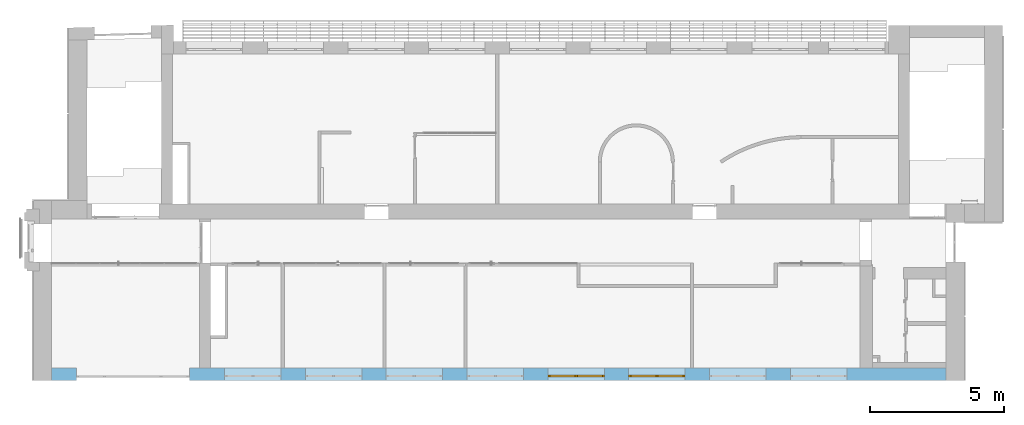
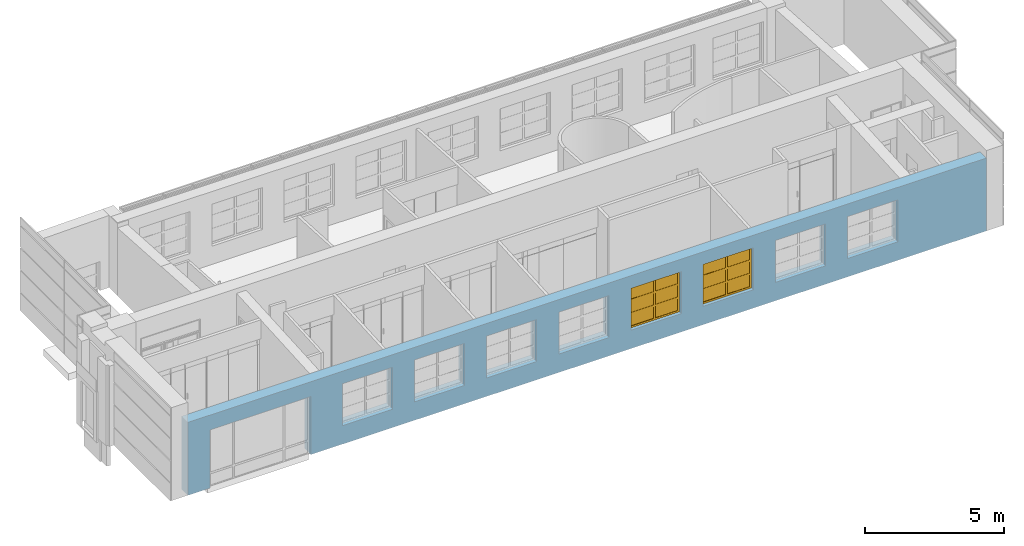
# One storey, part 28 of 46: 2 windows, 9 openings, plus 1 element that does not belong to this part.
"""IFC2X3 building model written with IfcOpenShell, lengths in millimetres."""

import ifcopenshell
import ifcopenshell.guid

model = None  # the IFC model being written
_history = None  # IfcOwnerHistory: only IFC2X3 demands one
_inside = {}  # id of a spatial element -> (the spatial element, [elements in it])
_under = {}  # id of a project, library or spatial element -> (it, [spatial elements below it])
_declared = {}  # id of a project -> (the project, [libraries it declares])
_typed = {}  # id of a type object -> (the type object, [elements of that type])
_made_of = {}  # id of a material, layer set ... -> (it, [elements and type objects made of it])


def new_model(schema):
    """Start an empty IFC model of exactly this schema.

    Asked for "IFC4X3", IfcOpenShell would pick the latest addendum, in which some entities
    have other attributes; the version numbers below select the first issue.
    IFC2X3 requires an IfcOwnerHistory on every rooted entity: one is made here for all.
    """
    global model, _history
    if schema == "IFC4X3":
        model = ifcopenshell.file(schema_version=(4, 3, 0, 0))
    else:
        model = ifcopenshell.file(schema=schema)
    _inside.clear()
    _under.clear()
    _declared.clear()
    _typed.clear()
    _made_of.clear()
    _history = None
    if model.schema == "IFC2X3":
        org = make("IfcOrganization", Name="unknown")
        user = make(
            "IfcPersonAndOrganization",
            ThePerson=make("IfcPerson", FamilyName="unknown"),
            TheOrganization=org,
        )
        app = make(
            "IfcApplication",
            ApplicationDeveloper=org,
            Version="unknown",
            ApplicationFullName="unknown",
            ApplicationIdentifier="unknown",
        )
        _history = make(
            "IfcOwnerHistory",
            OwningUser=user,
            OwningApplication=app,
            ChangeAction="ADDED",
            CreationDate=0,
        )
    return model


def make(cls, **values):
    """One entity of the class cls with the attributes given. An attribute that is None is left unset."""
    return model.create_entity(
        cls, **{name: value for name, value in values.items() if value is not None}
    )


def entity(cls, *values):
    """Any entity or typed value of the class cls, its attributes in the order of the schema. None: left unset."""
    e = model.create_entity(cls)
    for i, value in enumerate(values):
        if value is not None:
            e[i] = value
    return e


def rooted(cls, **values):
    """An entity with a GlobalId (a new one), such as an element, a storey or a relation."""
    return make(cls, GlobalId=ifcopenshell.guid.new(), OwnerHistory=_history, **values)


def si_unit(unit_type, name, prefix=None):
    """IfcSIUnit, for example si_unit("LENGTHUNIT", "METRE", prefix="MILLI")."""
    return make("IfcSIUnit", UnitType=unit_type, Prefix=prefix, Name=name)


def converted_unit(unit_type, name, factor, base, dimensions=None, offset=None):
    """IfcConversionBasedUnit, such as the inch: factor (a typed value) times the base unit."""
    return make(
        "IfcConversionBasedUnit"
        if offset is None
        else "IfcConversionBasedUnitWithOffset",
        ConversionOffset=offset,
        Dimensions=None
        if dimensions is None
        else entity("IfcDimensionalExponents", *dimensions),
        UnitType=unit_type,
        Name=name,
        ConversionFactor=make(
            "IfcMeasureWithUnit", ValueComponent=factor, UnitComponent=base
        ),
    )


def derived_unit(unit_type, elements):
    """IfcDerivedUnit: a product of units, each with its exponent."""
    return make(
        "IfcDerivedUnit",
        Elements=[
            make("IfcDerivedUnitElement", Unit=unit, Exponent=power)
            for unit, power in elements
        ],
        UnitType=unit_type,
    )


def assignment(units):
    """IfcUnitAssignment: the units of a project."""
    return None if units is None else make("IfcUnitAssignment", Units=units)


def point(xyz):
    """IfcCartesianPoint."""
    return None if xyz is None else make("IfcCartesianPoint", Coordinates=xyz)


def direction(xyz):
    """IfcDirection."""
    return None if xyz is None else make("IfcDirection", DirectionRatios=xyz)


def frame(location, z_axis=None, x_axis=None):
    """IfcAxis2Placement3D, a coordinate frame: its origin and axes. An axis left out is left unset."""
    return make(
        "IfcAxis2Placement3D",
        Location=point(location),
        Axis=direction(z_axis),
        RefDirection=direction(x_axis),
    )


def frame_2d(location, x_axis=None):
    """IfcAxis2Placement2D, a coordinate frame in the plane: its origin and x axis."""
    return make(
        "IfcAxis2Placement2D", Location=point(location), RefDirection=direction(x_axis)
    )


def origin():
    """The frame at (0, 0, 0) with its axes left unset."""
    return frame((0.0, 0.0, 0.0))


def origin_2d_with_axis():
    """The frame at (0, 0) in the plane with the x axis (1, 0) written out."""
    return frame_2d((0.0, 0.0), x_axis=(1.0, 0.0))


def place(relative_to, where):
    """IfcLocalPlacement: puts the frame where relative to a parent placement (None: the world)."""
    return make(
        "IfcLocalPlacement", PlacementRelTo=relative_to, RelativePlacement=where
    )


def context(
    kind, dimensions, precision=None, world=None, true_north=None, identifier=None
):
    """IfcGeometricRepresentationContext, for example the 3D "Model" context."""
    return make(
        "IfcGeometricRepresentationContext",
        ContextIdentifier=identifier,
        ContextType=kind,
        CoordinateSpaceDimension=dimensions,
        Precision=precision,
        WorldCoordinateSystem=world,
        TrueNorth=true_north,
    )


def subcontext(parent, identifier, kind, view, scale=None):
    """IfcGeometricRepresentationSubContext, for example "Body" below "Model"."""
    return make(
        "IfcGeometricRepresentationSubContext",
        ContextIdentifier=identifier,
        ContextType=kind,
        ParentContext=parent,
        TargetScale=scale,
        TargetView=view,
    )


def project(units=None, contexts=None):
    """IfcProject with its units and contexts."""
    return rooted(
        "IfcProject",
        Name="project",
        RepresentationContexts=contexts,
        UnitsInContext=assignment(units),
    )


def spatial(cls, under=None, at=None, **own):
    """A site, building, storey or space (cls), placed at a placement, below another one or the project."""
    s = rooted(cls, ObjectPlacement=at, **own)
    if under is not None:
        _under.setdefault(under.id(), (under, []))[1].append(s)
    return s


def profile(cls, at=None, kind="AREA", **sizes):
    """A parametric profile (cls). Its sizes go by their IFC names, for example OverallWidth=200.0."""
    return make(cls, ProfileType=kind, Position=at, **sizes)


def rectangle(**sizes):
    """IfcRectangleProfileDef."""
    return profile("IfcRectangleProfileDef", **sizes)


def extrude(swept, where, along, depth):
    """IfcExtrudedAreaSolid: the profile swept, set in the frame where, extruded along a direction by depth."""
    return make(
        "IfcExtrudedAreaSolid",
        SweptArea=swept,
        Position=where,
        ExtrudedDirection=direction(along),
        Depth=depth,
    )


def faces_of(points, faces, orient=None, outer=None):
    """IfcFace entities. A face is a list of loops; a loop is a list of indices into points, from 0.

    orient and outer hold one flag for each loop. By default every Orientation is true, the
    first loop of a face is its IfcFaceOuterBound and the others are IfcFaceBound.
    """
    made = []
    for i, loops in enumerate(faces):
        bounds = []
        for j, loop in enumerate(loops):
            is_outer = j == 0 if outer is None else outer[i][j]
            bounds.append(
                make(
                    "IfcFaceOuterBound" if is_outer else "IfcFaceBound",
                    Bound=make("IfcPolyLoop", Polygon=[points[k] for k in loop]),
                    Orientation=True if orient is None else orient[i][j],
                )
            )
        made.append(make("IfcFace", Bounds=bounds))
    return made


def face_set(faces, orient=None, outer=None):
    """The faces of one IfcConnectedFaceSet. surface_model builds it on its shared points."""
    return ("IfcConnectedFaceSet", faces, orient, outer)


def surface_model(cls, points, shells):
    """IfcFaceBasedSurfaceModel or IfcShellBasedSurfaceModel (cls): surfaces that need not close."""
    shared = [point(p) for p in points]
    made = [make(c, CfsFaces=faces_of(shared, fs, o, b)) for c, fs, o, b in shells]
    if cls == "IfcFaceBasedSurfaceModel":
        return make(cls, FbsmFaces=made)
    return make(cls, SbsmBoundary=made)


def shape(context_of_items, identifier, shape_type, items):
    """IfcShapeRepresentation: the items that make up one representation, for example the "Body"."""
    return make(
        "IfcShapeRepresentation",
        ContextOfItems=context_of_items,
        RepresentationIdentifier=identifier,
        RepresentationType=shape_type,
        Items=items,
    )


def source(mapping_origin, context_of_items, identifier, shape_type, items):
    """IfcRepresentationMap: a shape defined once, which mapped items show again and again."""
    return make(
        "IfcRepresentationMap",
        MappingOrigin=mapping_origin,
        MappedRepresentation=shape(context_of_items, identifier, shape_type, items),
    )


def transform(
    local_origin,
    x_axis=None,
    y_axis=None,
    z_axis=None,
    scale=None,
    scale2=None,
    scale3=None,
    uniform=True,
):
    """IfcCartesianTransformationOperator3D, or its non-uniform kind. x_axis, y_axis, z_axis: its Axis1, 2, 3."""
    if uniform:
        return make(
            "IfcCartesianTransformationOperator3D",
            Axis1=direction(x_axis),
            Axis2=direction(y_axis),
            LocalOrigin=point(local_origin),
            Scale=scale,
            Axis3=direction(z_axis),
        )
    return make(
        "IfcCartesianTransformationOperator3DnonUniform",
        Axis1=direction(x_axis),
        Axis2=direction(y_axis),
        LocalOrigin=point(local_origin),
        Scale=scale,
        Axis3=direction(z_axis),
        Scale2=scale2,
        Scale3=scale3,
    )


def mapped(mapping_source, mapping_target):
    """IfcMappedItem: shows the shape of a source again, moved by a transform."""
    return make(
        "IfcMappedItem", MappingSource=mapping_source, MappingTarget=mapping_target
    )


def material(Name=None, Category=None):
    """IfcMaterial."""
    return make("IfcMaterial", Name=Name, Category=Category)


def material_list(materials):
    """IfcMaterialList."""
    return make("IfcMaterialList", Materials=materials)


def layer(
    of_material, thickness, ventilated=None, Name=None, Category=None, Priority=None
):
    """IfcMaterialLayer: one layer of a wall or slab, of a material (None: an air gap)."""
    return make(
        "IfcMaterialLayer",
        Material=of_material,
        LayerThickness=thickness,
        IsVentilated=ventilated,
        Name=Name,
        Category=Category,
        Priority=Priority,
    )


def layer_set(layers, Name=None):
    """IfcMaterialLayerSet."""
    return make("IfcMaterialLayerSet", MaterialLayers=layers, LayerSetName=Name)


def layer_usage(for_layer_set, set_direction, sense, offset, extent=None):
    """IfcMaterialLayerSetUsage: how a layer set lies in its element."""
    return make(
        "IfcMaterialLayerSetUsage",
        ForLayerSet=for_layer_set,
        LayerSetDirection=set_direction,
        DirectionSense=sense,
        OffsetFromReferenceLine=offset,
        ReferenceExtent=extent,
    )


def made_of(thing, what):
    """Note that an element or type object is made of a material, layer set ...; save() writes the relation."""
    if what is not None:
        _made_of.setdefault(what.id(), (what, []))[1].append(thing)
    return thing


def type_object(cls, material=None, **own):
    """A type object (cls), such as IfcWallType, which elements share."""
    return made_of(rooted(cls, **own), material)


def type_shapes(of_type, sources):
    """Give a type object the sources (RepresentationMaps) that its elements show as mapped items."""
    of_type.RepresentationMaps = sources


def element(
    cls,
    number,
    at=None,
    inside=None,
    cuts=None,
    type_object=None,
    material=None,
    context=None,
    identifier="Body",
    shape_type=None,
    held_by="IfcProductDefinitionShape",
    body=None,
    shapes=None,
    **own,
):
    """One element of the class cls, such as IfcWall. Its Tag is "e" and its number.

    at: its placement. inside: the storey or other place that contains it. cuts: it is an
    opening in that element (IfcRelVoidsElement). A single representation is given by context,
    identifier, shape_type and body (its items); several are given by shapes. held_by: the class
    of the entity that holds the representations. save() writes the other relations.
    """
    e = rooted(cls, Tag="e%d" % number, ObjectPlacement=at, **own)
    if body is not None:
        shapes = [shape(context, identifier, shape_type, body)]
    if shapes is not None:
        e.Representation = make(held_by, Representations=shapes)
    if inside is not None:
        _inside.setdefault(inside.id(), (inside, []))[1].append(e)
    if cuts is not None:
        rooted(
            "IfcRelVoidsElement", RelatingBuildingElement=cuts, RelatedOpeningElement=e
        )
    if type_object is not None:
        _typed.setdefault(type_object.id(), (type_object, []))[1].append(e)
    return made_of(e, material)


def fill(opening, filler):
    """IfcRelFillsElement: the door or window that sits in an opening."""
    return rooted(
        "IfcRelFillsElement",
        RelatingOpeningElement=opening,
        RelatedBuildingElement=filler,
    )


def aggregate(whole, parts):
    """IfcRelAggregates: a whole, such as a stair, and the parts it consists of."""
    return rooted("IfcRelAggregates", RelatingObject=whole, RelatedObjects=parts)


def save(model, path):
    """Write the relations noted so far, then the file.

    IfcRelAggregates (storeys below a building ...), IfcRelContainedInSpatialStructure (elements
    in a storey), IfcRelDefinesByType, IfcRelAssociatesMaterial and IfcRelDeclares: one each for
    every whole, place, type object, material and project.
    """
    for whole, parts in _under.values():
        aggregate(whole, parts)
    for where, things in _inside.values():
        rooted(
            "IfcRelContainedInSpatialStructure",
            RelatedElements=things,
            RelatingStructure=where,
        )
    for kind, things in _typed.values():
        rooted("IfcRelDefinesByType", RelatedObjects=things, RelatingType=kind)
    for what, things in _made_of.values():
        rooted("IfcRelAssociatesMaterial", RelatedObjects=things, RelatingMaterial=what)
    for by, libraries in _declared.values():
        rooted("IfcRelDeclares", RelatingContext=by, RelatedDefinitions=libraries)
    model.write(path)


model = new_model("IFC2X3")

# Units and contexts
model_context = context("Model", 3, precision=0.01, world=origin(), true_north=direction((6.12303176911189e-17, 1.0)))
body_context = subcontext(model_context, "Body", "Model", "MODEL_VIEW")
ifc_project = project(units=[si_unit("LENGTHUNIT", "METRE", prefix="MILLI"), si_unit("AREAUNIT", "SQUARE_METRE"), si_unit("VOLUMEUNIT", "CUBIC_METRE"), converted_unit("PLANEANGLEUNIT", "DEGREE", entity("IfcRatioMeasure", 0.0174532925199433), si_unit("PLANEANGLEUNIT", "RADIAN"), dimensions=[0, 0, 0, 0, 0, 0, 0]), si_unit("MASSUNIT", "GRAM", prefix="KILO"), derived_unit("MASSDENSITYUNIT", [(si_unit("MASSUNIT", "GRAM", prefix="KILO"), 1), (si_unit("LENGTHUNIT", "METRE"), -3)]), si_unit("TIMEUNIT", "SECOND"), si_unit("FREQUENCYUNIT", "HERTZ"), si_unit("THERMODYNAMICTEMPERATUREUNIT", "DEGREE_CELSIUS"), derived_unit("THERMALTRANSMITTANCEUNIT", [(si_unit("MASSUNIT", "GRAM", prefix="KILO"), 1), (si_unit("THERMODYNAMICTEMPERATUREUNIT", "KELVIN"), -1), (si_unit("TIMEUNIT", "SECOND"), -3)]), derived_unit("VOLUMETRICFLOWRATEUNIT", [(si_unit("LENGTHUNIT", "METRE"), 3), (si_unit("TIMEUNIT", "SECOND"), -1)]), si_unit("ELECTRICCURRENTUNIT", "AMPERE"), si_unit("ELECTRICVOLTAGEUNIT", "VOLT"), si_unit("POWERUNIT", "WATT"), si_unit("FORCEUNIT", "NEWTON", prefix="KILO"), si_unit("ILLUMINANCEUNIT", "LUX"), si_unit("LUMINOUSFLUXUNIT", "LUMEN"), si_unit("LUMINOUSINTENSITYUNIT", "CANDELA"), derived_unit("USERDEFINED", [(si_unit("MASSUNIT", "GRAM", prefix="KILO"), -1), (si_unit("LENGTHUNIT", "METRE"), -2), (si_unit("TIMEUNIT", "SECOND"), 3), (si_unit("LUMINOUSFLUXUNIT", "LUMEN"), 1)]), derived_unit("LINEARVELOCITYUNIT", [(si_unit("LENGTHUNIT", "METRE"), 1), (si_unit("TIMEUNIT", "SECOND"), -1)]), si_unit("PRESSUREUNIT", "PASCAL"), derived_unit("USERDEFINED", [(si_unit("LENGTHUNIT", "METRE"), -2), (si_unit("MASSUNIT", "GRAM", prefix="KILO"), 1), (si_unit("TIMEUNIT", "SECOND"), -2)])], contexts=[model_context])

# Site, building, storey
site_placement = place(None, frame((-151.875543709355, 2715.0, 0.0)))
site = spatial("IfcSite", under=ifc_project, at=site_placement, Name="Surface", CompositionType="ELEMENT")
building_placement = place(site_placement, origin())
building = spatial("IfcBuilding", under=site, at=building_placement, CompositionType="ELEMENT")
storey_placement = place(building_placement, frame((0.0, 0.0, 10060.0)))
storey = spatial("IfcBuildingStorey", under=building, at=storey_placement, Name="4 korrus", CompositionType="ELEMENT", Elevation=10060.0000000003)

# Wall, openings, windows
ifc_material_1 = material(Name="Brick, Common")
ifc_layer_1 = layer(ifc_material_1, 440.0)
ifc_material_2 = material(Name="__Kips GN13_tava")
ifc_layer_2 = layer(ifc_material_2, 20.0)
ifc_layer_set = layer_set([ifc_layer_1, ifc_layer_2], Name="Basic Wall:VS-1")
ifc_layer_usage = layer_usage(ifc_layer_set, "AXIS2", "NEGATIVE", 230.0)
wall_type = type_object("IfcWallType", Name="Basic Wall:VS-1", PredefinedType="STANDARD", material=ifc_layer_set)
wall_placement = place(storey_placement, frame((33741.6162682, 229.904632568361, 0.0), z_axis=(0.0, 0.0, 1.0), x_axis=(-1.0, 0.0, 0.0)))
wall = element("IfcWallStandardCase", 1, at=wall_placement, inside=storey, type_object=wall_type, material=ifc_layer_usage, Name="SEIN - 001", ObjectType="Basic Wall:VS-1", context=body_context, shape_type="SweptSolid", body=[
    extrude(rectangle(XDim=33281.740722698, YDim=460.0, at=frame_2d((16640.870361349, 0.0), x_axis=(-1.0, 0.0))), origin(), (0.0, 0.0, 1.0), 3210.37840402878),
])
opening_1_placement = place(wall_placement, frame((33741.6162682, 229.904632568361, 0.0), z_axis=(0.0, 0.0, 1.0), x_axis=(-1.0, 0.0, 0.0)))
element("IfcOpeningElement", 2, at=opening_1_placement, cuts=wall, Name="SEIN - 001", ObjectType="Opening", context=body_context, shape_type="SweptSolid", body=[
    extrude(rectangle(XDim=2560.0, YDim=4200.0, at=frame_2d((2.27373675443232e-13, 1.02318153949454e-12), x_axis=(0.0, 1.0))), frame((3483.85381698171, 928.104632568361, 1280.0), z_axis=(0.0, -1.0, 0.0), x_axis=(-1.0, 0.0, 0.0)), (0.0, 0.0, 1.0), 1393.8),
])
opening_2_placement = place(wall_placement, frame((33741.6162682, 229.904632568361, 0.0), z_axis=(0.0, 0.0, 1.0), x_axis=(-1.0, 0.0, 0.0)))
element("IfcOpeningElement", 3, at=opening_2_placement, cuts=wall, Name="SEIN - 001", ObjectType="Opening", context=body_context, shape_type="SweptSolid", body=[
    extrude(rectangle(XDim=1850.0, YDim=2100.0, at=frame_2d((0.0, 1.02318153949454e-12), x_axis=(1.0, 0.0))), frame((10949.5647264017, 927.804632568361, 1734.628696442), z_axis=(0.0, -1.0, 0.0), x_axis=(0.0, 0.0, 1.0)), (0.0, 0.0, 1.0), 1393.8),
])
opening_3_placement = place(wall_placement, frame((33741.6162682, 229.904632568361, 0.0), z_axis=(0.0, 0.0, 1.0), x_axis=(-1.0, 0.0, 0.0)))
element("IfcOpeningElement", 4, at=opening_3_placement, cuts=wall, Name="SEIN - 001", ObjectType="Opening", context=body_context, shape_type="SweptSolid", body=[
    extrude(rectangle(XDim=1850.0, YDim=2100.0, at=frame_2d((0.0, 5.6843418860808e-13), x_axis=(1.0, 0.0))), frame((7949.56472636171, 927.804632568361, 1734.628696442), z_axis=(0.0, -1.0, 0.0), x_axis=(0.0, 0.0, 1.0)), (0.0, 0.0, 1.0), 1393.8),
])
opening_4_placement = place(wall_placement, frame((33741.6162682, 229.904632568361, 0.0), z_axis=(0.0, 0.0, 1.0), x_axis=(-1.0, 0.0, 0.0)))
element("IfcOpeningElement", 5, at=opening_4_placement, cuts=wall, Name="SEIN - 001", ObjectType="Opening", context=body_context, shape_type="SweptSolid", body=[
    extrude(rectangle(XDim=1850.0, YDim=2100.0, at=origin_2d_with_axis()), frame((13949.5647264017, 927.804632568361, 1734.628696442), z_axis=(0.0, -1.0, 0.0), x_axis=(0.0, 0.0, 1.0)), (0.0, 0.0, 1.0), 1393.8),
])
opening_5_placement = place(wall_placement, frame((33741.6162682, 229.904632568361, 0.0), z_axis=(0.0, 0.0, 1.0), x_axis=(-1.0, 0.0, 0.0)))
element("IfcOpeningElement", 6, at=opening_5_placement, cuts=wall, Name="SEIN - 001", ObjectType="Opening", context=body_context, shape_type="SweptSolid", body=[
    extrude(rectangle(XDim=1850.0, YDim=2100.0, at=frame_2d((0.0, 1.02318153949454e-12), x_axis=(1.0, 0.0))), frame((16969.5647264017, 927.804632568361, 1734.628696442), z_axis=(0.0, -1.0, 0.0), x_axis=(0.0, 0.0, 1.0)), (0.0, 0.0, 1.0), 1393.8),
])
opening_6_placement = place(wall_placement, frame((33741.6162682, 229.904632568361, 0.0), z_axis=(0.0, 0.0, 1.0), x_axis=(-1.0, 0.0, 0.0)))
opening_6 = element("IfcOpeningElement", 7, at=opening_6_placement, cuts=wall, Name="SEIN - 001", ObjectType="Opening", context=body_context, shape_type="SweptSolid", body=[
    extrude(rectangle(XDim=1850.0, YDim=2100.0, at=origin_2d_with_axis()), frame((19979.5647264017, 927.804632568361, 1734.628696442), z_axis=(0.0, -1.0, 0.0), x_axis=(0.0, 0.0, 1.0)), (0.0, 0.0, 1.0), 1393.8),
])
opening_7_placement = place(wall_placement, frame((33741.6162682, 229.904632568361, 0.0), z_axis=(0.0, 0.0, 1.0), x_axis=(-1.0, 0.0, 0.0)))
opening_7 = element("IfcOpeningElement", 8, at=opening_7_placement, cuts=wall, Name="SEIN - 001", ObjectType="Opening", context=body_context, shape_type="SweptSolid", body=[
    extrude(rectangle(XDim=1850.0, YDim=2100.0, at=origin_2d_with_axis()), frame((22979.5647264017, 927.804632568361, 1734.628696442), z_axis=(0.0, -1.0, 0.0), x_axis=(0.0, 0.0, 1.0)), (0.0, 0.0, 1.0), 1393.8),
])
opening_8_placement = place(wall_placement, frame((33741.6162682, 229.904632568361, 0.0), z_axis=(0.0, 0.0, 1.0), x_axis=(-1.0, 0.0, 0.0)))
element("IfcOpeningElement", 9, at=opening_8_placement, cuts=wall, Name="SEIN - 001", ObjectType="Opening", context=body_context, shape_type="SweptSolid", body=[
    extrude(rectangle(XDim=1850.0, YDim=2100.0, at=origin_2d_with_axis()), frame((25989.5647264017, 927.804632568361, 1734.628696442), z_axis=(0.0, -1.0, 0.0), x_axis=(0.0, 0.0, 1.0)), (0.0, 0.0, 1.0), 1393.8),
])
opening_9_placement = place(wall_placement, frame((33741.6162682, 229.904632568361, 0.0), z_axis=(0.0, 0.0, 1.0), x_axis=(-1.0, 0.0, 0.0)))
element("IfcOpeningElement", 10, at=opening_9_placement, cuts=wall, Name="SEIN - 001", ObjectType="Opening", context=body_context, shape_type="SweptSolid", body=[
    extrude(rectangle(XDim=1850.0, YDim=2100.0, at=origin_2d_with_axis()), frame((28999.5647264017, 927.804632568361, 1734.628696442), z_axis=(0.0, -1.0, 0.0), x_axis=(0.0, 0.0, 1.0)), (0.0, 0.0, 1.0), 1393.8),
])
ifc_material_3 = material(Name="Paint - Titanium White")
ifc_material_4 = material(Name="Paint - Dark Gray")
ifc_material_5 = material(Name="Glass - Clear Fast")
ifc_material_list_1 = material_list([ifc_material_3, ifc_material_4, ifc_material_5])
ifc_material_list_2 = material_list([ifc_material_3, ifc_material_4, ifc_material_5])
window_style = type_object("IfcWindowStyle", Name="Aken_1850x2100", ConstructionType="NOTDEFINED", OperationType="DOUBLE_PANEL_VERTICAL", ParameterTakesPrecedence=False, Sizeable=False, material=ifc_material_list_2)
shared_shape = source(origin(), body_context, "Body", "SurfaceModel", [
    surface_model("IfcFaceBasedSurfaceModel", [(80.0, -665.9, 1770.0), (80.0, -620.9, 1770.0), (0.0, -620.9, 1770.0), (0.0, -665.9, 1770.0), (80.0, -665.9, 80.0), (80.0, -620.9, 80.0), (80.0, -620.9, 1770.0), (80.0, -665.9, 1770.0), (80.0, -620.9, 1770.0), (80.0, -620.9, 80.0), (0.0, -620.9, 80.0), (0.0, -620.9, 1770.0), (0.0, -665.9, 1770.0), (0.0, -620.9, 1770.0), (0.0, -620.9, 80.0), (0.0, -665.9, 80.0), (80.0, -665.9, 1770.0), (0.0, -665.9, 1770.0), (0.0, -665.9, 80.0), (80.0, -665.9, 80.0), (0.0, -665.9, 80.0), (0.0, -620.9, 80.0), (80.0, -620.9, 80.0), (80.0, -665.9, 80.0), (2020.0, -665.9, 80.0), (2020.0, -620.9, 80.0), (2100.0, -620.9, 80.0), (2100.0, -665.9, 80.0), (2020.0, -665.9, 1770.0), (2020.0, -620.9, 1770.0), (2020.0, -620.9, 80.0), (2020.0, -665.9, 80.0), (2020.0, -620.9, 80.0), (2020.0, -620.9, 1770.0), (2100.0, -620.9, 1770.0), (2100.0, -620.9, 80.0), (2100.0, -665.9, 80.0), (2100.0, -620.9, 80.0), (2100.0, -620.9, 1770.0), (2100.0, -665.9, 1770.0), (2020.0, -665.9, 80.0), (2100.0, -665.9, 80.0), (2100.0, -665.9, 1770.0), (2020.0, -665.9, 1770.0), (2100.0, -665.9, 1770.0), (2100.0, -620.9, 1770.0), (2020.0, -620.9, 1770.0), (2020.0, -665.9, 1770.0), (1010.0, -665.9, 80.0), (1010.0, -620.9, 80.0), (1090.0, -620.9, 80.0), (1090.0, -665.9, 80.0), (1010.0, -665.9, 1770.0), (1010.0, -620.9, 1770.0), (1010.0, -620.9, 80.0), (1010.0, -665.9, 80.0), (1010.0, -620.9, 80.0), (1010.0, -620.9, 1770.0), (1090.0, -620.9, 1770.0), (1090.0, -620.9, 80.0), (1090.0, -665.9, 80.0), (1090.0, -620.9, 80.0), (1090.0, -620.9, 1770.0), (1090.0, -665.9, 1770.0), (1010.0, -665.9, 80.0), (1090.0, -665.9, 80.0), (1090.0, -665.9, 1770.0), (1010.0, -665.9, 1770.0), (1090.0, -665.9, 1770.0), (1090.0, -620.9, 1770.0), (1010.0, -620.9, 1770.0), (1010.0, -665.9, 1770.0), (80.0, -665.9, 80.0), (80.0, -620.9, 80.0), (0.0, -620.9, 80.0), (0.0, -665.9, 80.0), (1010.0, -665.9, 80.0), (1010.0, -620.9, 80.0), (80.0, -620.9, 80.0), (80.0, -665.9, 80.0), (80.0, -620.9, 80.0), (1010.0, -620.9, 80.0), (1090.0, -620.9, 80.0), (2020.0, -620.9, 80.0), (2100.0, -620.9, 80.0), (2100.0, -620.9, 0.0), (0.0, -620.9, 0.0), (0.0, -620.9, 80.0), (0.0, -665.9, 80.0), (0.0, -620.9, 80.0), (0.0, -620.9, 0.0), (0.0, -665.9, 0.0), (80.0, -665.9, 80.0), (0.0, -665.9, 80.0), (0.0, -665.9, 0.0), (2100.0, -665.9, 0.0), (2100.0, -665.9, 80.0), (2020.0, -665.9, 80.0), (1090.0, -665.9, 80.0), (1010.0, -665.9, 80.0), (1090.0, -665.9, 80.0), (1090.0, -620.9, 80.0), (1010.0, -620.9, 80.0), (1010.0, -665.9, 80.0), (2020.0, -665.9, 80.0), (2020.0, -620.9, 80.0), (1090.0, -620.9, 80.0), (1090.0, -665.9, 80.0), (2100.0, -665.9, 80.0), (2100.0, -620.9, 80.0), (2020.0, -620.9, 80.0), (2020.0, -665.9, 80.0), (2100.0, -665.9, 0.0), (2100.0, -620.9, 0.0), (2100.0, -620.9, 80.0), (2100.0, -665.9, 80.0), (0.0, -665.9, 0.0), (0.0, -620.9, 0.0), (2100.0, -620.9, 0.0), (2100.0, -665.9, 0.0), (1010.0, -665.9, 1770.0), (1010.0, -620.9, 1770.0), (1090.0, -620.9, 1770.0), (1090.0, -665.9, 1770.0), (80.0, -665.9, 1770.0), (80.0, -620.9, 1770.0), (1010.0, -620.9, 1770.0), (1010.0, -665.9, 1770.0), (1010.0, -620.9, 1770.0), (80.0, -620.9, 1770.0), (0.0, -620.9, 1770.0), (0.0, -620.9, 1850.0), (2100.0, -620.9, 1850.0), (2100.0, -620.9, 1770.0), (2020.0, -620.9, 1770.0), (1090.0, -620.9, 1770.0), (1090.0, -665.9, 1770.0), (1090.0, -620.9, 1770.0), (2020.0, -620.9, 1770.0), (2020.0, -665.9, 1770.0), (1010.0, -665.9, 1770.0), (1090.0, -665.9, 1770.0), (2020.0, -665.9, 1770.0), (2100.0, -665.9, 1770.0), (2100.0, -665.9, 1850.0), (0.0, -665.9, 1850.0), (0.0, -665.9, 1770.0), (80.0, -665.9, 1770.0), (0.0, -665.9, 1770.0), (0.0, -620.9, 1770.0), (80.0, -620.9, 1770.0), (80.0, -665.9, 1770.0), (0.0, -665.9, 1850.0), (0.0, -620.9, 1850.0), (0.0, -620.9, 1770.0), (0.0, -665.9, 1770.0), (2100.0, -665.9, 1850.0), (2100.0, -620.9, 1850.0), (0.0, -620.9, 1850.0), (0.0, -665.9, 1850.0), (2100.0, -665.9, 1770.0), (2100.0, -620.9, 1770.0), (2100.0, -620.9, 1850.0), (2100.0, -665.9, 1850.0), (2020.0, -665.9, 1770.0), (2020.0, -620.9, 1770.0), (2100.0, -620.9, 1770.0), (2100.0, -665.9, 1770.0), (80.0, -640.9, 590.0), (80.0, -630.9, 590.0), (1010.0, -630.9, 590.0), (1010.0, -640.9, 590.0), (80.0, -640.9, 670.0), (80.0, -630.9, 670.0), (80.0, -630.9, 590.0), (80.0, -640.9, 590.0), (80.0, -630.9, 590.0), (80.0, -630.9, 670.0), (1010.0, -630.9, 670.0), (1010.0, -630.9, 590.0), (1010.0, -640.9, 590.0), (1010.0, -630.9, 590.0), (1010.0, -630.9, 670.0), (1010.0, -640.9, 670.0), (80.0, -640.9, 590.0), (1010.0, -640.9, 590.0), (1010.0, -640.9, 670.0), (80.0, -640.9, 670.0), (1010.0, -640.9, 670.0), (1010.0, -630.9, 670.0), (80.0, -630.9, 670.0), (80.0, -640.9, 670.0), (80.0, -640.9, 1180.0), (80.0, -630.9, 1180.0), (1010.0, -630.9, 1180.0), (1010.0, -640.9, 1180.0), (80.0, -640.9, 1260.0), (80.0, -630.9, 1260.0), (80.0, -630.9, 1180.0), (80.0, -640.9, 1180.0), (80.0, -630.9, 1180.0), (80.0, -630.9, 1260.0), (1010.0, -630.9, 1260.0), (1010.0, -630.9, 1180.0), (1010.0, -640.9, 1180.0), (1010.0, -630.9, 1180.0), (1010.0, -630.9, 1260.0), (1010.0, -640.9, 1260.0), (80.0, -640.9, 1180.0), (1010.0, -640.9, 1180.0), (1010.0, -640.9, 1260.0), (80.0, -640.9, 1260.0), (1010.0, -640.9, 1260.0), (1010.0, -630.9, 1260.0), (80.0, -630.9, 1260.0), (80.0, -640.9, 1260.0), (1090.0, -640.9, 590.0), (1090.0, -630.9, 590.0), (2020.0, -630.9, 590.0), (2020.0, -640.9, 590.0), (1090.0, -640.9, 670.0), (1090.0, -630.9, 670.0), (1090.0, -630.9, 590.0), (1090.0, -640.9, 590.0), (1090.0, -630.9, 590.0), (1090.0, -630.9, 670.0), (2020.0, -630.9, 670.0), (2020.0, -630.9, 590.0), (2020.0, -640.9, 590.0), (2020.0, -630.9, 590.0), (2020.0, -630.9, 670.0), (2020.0, -640.9, 670.0), (1090.0, -640.9, 590.0), (2020.0, -640.9, 590.0), (2020.0, -640.9, 670.0), (1090.0, -640.9, 670.0), (2020.0, -640.9, 670.0), (2020.0, -630.9, 670.0), (1090.0, -630.9, 670.0), (1090.0, -640.9, 670.0), (1090.0, -640.9, 1180.0), (1090.0, -630.9, 1180.0), (2020.0, -630.9, 1180.0), (2020.0, -640.9, 1180.0), (1090.0, -640.9, 1260.0), (1090.0, -630.9, 1260.0), (1090.0, -630.9, 1180.0), (1090.0, -640.9, 1180.0), (1090.0, -630.9, 1180.0), (1090.0, -630.9, 1260.0), (2020.0, -630.9, 1260.0), (2020.0, -630.9, 1180.0), (2020.0, -640.9, 1180.0), (2020.0, -630.9, 1180.0), (2020.0, -630.9, 1260.0), (2020.0, -640.9, 1260.0), (1090.0, -640.9, 1180.0), (2020.0, -640.9, 1180.0), (2020.0, -640.9, 1260.0), (1090.0, -640.9, 1260.0), (2020.0, -640.9, 1260.0), (2020.0, -630.9, 1260.0), (1090.0, -630.9, 1260.0), (1090.0, -640.9, 1260.0)], [face_set([[[0, 1, 2, 3]]]), face_set([[[4, 5, 6, 7]]]), face_set([[[8, 9, 10, 11]]]), face_set([[[12, 13, 14, 15]]]), face_set([[[16, 17, 18, 19]]]), face_set([[[20, 21, 22, 23]]]), face_set([[[24, 25, 26, 27]]]), face_set([[[28, 29, 30, 31]]]), face_set([[[32, 33, 34, 35]]]), face_set([[[36, 37, 38, 39]]]), face_set([[[40, 41, 42, 43]]]), face_set([[[44, 45, 46, 47]]]), face_set([[[48, 49, 50, 51]]]), face_set([[[52, 53, 54, 55]]]), face_set([[[56, 57, 58, 59]]]), face_set([[[60, 61, 62, 63]]]), face_set([[[64, 65, 66, 67]]]), face_set([[[68, 69, 70, 71]]]), face_set([[[72, 73, 74, 75]]]), face_set([[[76, 77, 78, 79]]]), face_set([[[80, 81, 82, 83, 84, 85, 86, 87]]]), face_set([[[88, 89, 90, 91]]]), face_set([[[92, 93, 94, 95, 96, 97, 98, 99]]]), face_set([[[100, 101, 102, 103]]]), face_set([[[104, 105, 106, 107]]]), face_set([[[108, 109, 110, 111]]]), face_set([[[112, 113, 114, 115]]]), face_set([[[116, 117, 118, 119]]]), face_set([[[120, 121, 122, 123]]]), face_set([[[124, 125, 126, 127]]]), face_set([[[128, 129, 130, 131, 132, 133, 134, 135]]]), face_set([[[136, 137, 138, 139]]]), face_set([[[140, 141, 142, 143, 144, 145, 146, 147]]]), face_set([[[148, 149, 150, 151]]]), face_set([[[152, 153, 154, 155]]]), face_set([[[156, 157, 158, 159]]]), face_set([[[160, 161, 162, 163]]]), face_set([[[164, 165, 166, 167]]]), face_set([[[168, 169, 170, 171]]]), face_set([[[172, 173, 174, 175]]]), face_set([[[176, 177, 178, 179]]]), face_set([[[180, 181, 182, 183]]]), face_set([[[184, 185, 186, 187]]]), face_set([[[188, 189, 190, 191]]]), face_set([[[192, 193, 194, 195]]]), face_set([[[196, 197, 198, 199]]]), face_set([[[200, 201, 202, 203]]]), face_set([[[204, 205, 206, 207]]]), face_set([[[208, 209, 210, 211]]]), face_set([[[212, 213, 214, 215]]]), face_set([[[216, 217, 218, 219]]]), face_set([[[220, 221, 222, 223]]]), face_set([[[224, 225, 226, 227]]]), face_set([[[228, 229, 230, 231]]]), face_set([[[232, 233, 234, 235]]]), face_set([[[236, 237, 238, 239]]]), face_set([[[240, 241, 242, 243]]]), face_set([[[244, 245, 246, 247]]]), face_set([[[248, 249, 250, 251]]]), face_set([[[252, 253, 254, 255]]]), face_set([[[256, 257, 258, 259]]]), face_set([[[260, 261, 262, 263]]])]),
    surface_model("IfcFaceBasedSurfaceModel", [(80.0, -620.9, 1770.0), (80.0, -595.9, 1770.0), (0.0, -595.9, 1770.0), (0.0, -620.9, 1770.0), (80.0, -620.9, 80.0), (80.0, -595.9, 80.0), (80.0, -595.9, 1770.0), (80.0, -620.9, 1770.0), (80.0, -595.9, 1770.0), (80.0, -595.9, 80.0), (0.0, -595.9, 80.0), (0.0, -595.9, 1770.0), (0.0, -620.9, 1770.0), (0.0, -595.9, 1770.0), (0.0, -595.9, 80.0), (0.0, -620.9, 80.0), (80.0, -620.9, 1770.0), (0.0, -620.9, 1770.0), (0.0, -620.9, 80.0), (80.0, -620.9, 80.0), (0.0, -620.9, 80.0), (0.0, -595.9, 80.0), (80.0, -595.9, 80.0), (80.0, -620.9, 80.0), (2020.0, -620.9, 80.0), (2020.0, -595.9, 80.0), (2100.0, -595.9, 80.0), (2100.0, -620.9, 80.0), (2020.0, -620.9, 1770.0), (2020.0, -595.9, 1770.0), (2020.0, -595.9, 80.0), (2020.0, -620.9, 80.0), (2020.0, -595.9, 80.0), (2020.0, -595.9, 1770.0), (2100.0, -595.9, 1770.0), (2100.0, -595.9, 80.0), (2100.0, -620.9, 80.0), (2100.0, -595.9, 80.0), (2100.0, -595.9, 1770.0), (2100.0, -620.9, 1770.0), (2020.0, -620.9, 80.0), (2100.0, -620.9, 80.0), (2100.0, -620.9, 1770.0), (2020.0, -620.9, 1770.0), (2100.0, -620.9, 1770.0), (2100.0, -595.9, 1770.0), (2020.0, -595.9, 1770.0), (2020.0, -620.9, 1770.0), (1010.0, -620.9, 80.0), (1010.0, -595.9, 80.0), (1090.0, -595.9, 80.0), (1090.0, -620.9, 80.0), (1010.0, -620.9, 1770.0), (1010.0, -595.9, 1770.0), (1010.0, -595.9, 80.0), (1010.0, -620.9, 80.0), (1010.0, -595.9, 80.0), (1010.0, -595.9, 1770.0), (1090.0, -595.9, 1770.0), (1090.0, -595.9, 80.0), (1090.0, -620.9, 80.0), (1090.0, -595.9, 80.0), (1090.0, -595.9, 1770.0), (1090.0, -620.9, 1770.0), (1010.0, -620.9, 80.0), (1090.0, -620.9, 80.0), (1090.0, -620.9, 1770.0), (1010.0, -620.9, 1770.0), (1090.0, -620.9, 1770.0), (1090.0, -595.9, 1770.0), (1010.0, -595.9, 1770.0), (1010.0, -620.9, 1770.0), (80.0, -620.9, 80.0), (80.0, -595.9, 80.0), (0.0, -595.9, 80.0), (0.0, -620.9, 80.0), (1010.0, -620.9, 80.0), (1010.0, -595.9, 80.0), (80.0, -595.9, 80.0), (80.0, -620.9, 80.0), (80.0, -595.9, 80.0), (1010.0, -595.9, 80.0), (1090.0, -595.9, 80.0), (2020.0, -595.9, 80.0), (2100.0, -595.9, 80.0), (2100.0, -595.9, 0.0), (0.0, -595.9, 0.0), (0.0, -595.9, 80.0), (0.0, -620.9, 80.0), (0.0, -595.9, 80.0), (0.0, -595.9, 0.0), (0.0, -620.9, 0.0), (80.0, -620.9, 80.0), (0.0, -620.9, 80.0), (0.0, -620.9, 0.0), (2100.0, -620.9, 0.0), (2100.0, -620.9, 80.0), (2020.0, -620.9, 80.0), (1090.0, -620.9, 80.0), (1010.0, -620.9, 80.0), (1090.0, -620.9, 80.0), (1090.0, -595.9, 80.0), (1010.0, -595.9, 80.0), (1010.0, -620.9, 80.0), (2020.0, -620.9, 80.0), (2020.0, -595.9, 80.0), (1090.0, -595.9, 80.0), (1090.0, -620.9, 80.0), (2100.0, -620.9, 80.0), (2100.0, -595.9, 80.0), (2020.0, -595.9, 80.0), (2020.0, -620.9, 80.0), (2100.0, -620.9, 0.0), (2100.0, -595.9, 0.0), (2100.0, -595.9, 80.0), (2100.0, -620.9, 80.0), (0.0, -620.9, 0.0), (0.0, -595.9, 0.0), (2100.0, -595.9, 0.0), (2100.0, -620.9, 0.0), (1010.0, -620.9, 1770.0), (1010.0, -595.9, 1770.0), (1090.0, -595.9, 1770.0), (1090.0, -620.9, 1770.0), (80.0, -620.9, 1770.0), (80.0, -595.9, 1770.0), (1010.0, -595.9, 1770.0), (1010.0, -620.9, 1770.0), (1010.0, -595.9, 1770.0), (80.0, -595.9, 1770.0), (0.0, -595.9, 1770.0), (0.0, -595.9, 1850.0), (2100.0, -595.9, 1850.0), (2100.0, -595.9, 1770.0), (2020.0, -595.9, 1770.0), (1090.0, -595.9, 1770.0), (1090.0, -620.9, 1770.0), (1090.0, -595.9, 1770.0), (2020.0, -595.9, 1770.0), (2020.0, -620.9, 1770.0), (1010.0, -620.9, 1770.0), (1090.0, -620.9, 1770.0), (2020.0, -620.9, 1770.0), (2100.0, -620.9, 1770.0), (2100.0, -620.9, 1850.0), (0.0, -620.9, 1850.0), (0.0, -620.9, 1770.0), (80.0, -620.9, 1770.0), (0.0, -620.9, 1770.0), (0.0, -595.9, 1770.0), (80.0, -595.9, 1770.0), (80.0, -620.9, 1770.0), (0.0, -620.9, 1850.0), (0.0, -595.9, 1850.0), (0.0, -595.9, 1770.0), (0.0, -620.9, 1770.0), (2100.0, -620.9, 1850.0), (2100.0, -595.9, 1850.0), (0.0, -595.9, 1850.0), (0.0, -620.9, 1850.0), (2100.0, -620.9, 1770.0), (2100.0, -595.9, 1770.0), (2100.0, -595.9, 1850.0), (2100.0, -620.9, 1850.0), (2020.0, -620.9, 1770.0), (2020.0, -595.9, 1770.0), (2100.0, -595.9, 1770.0), (2100.0, -620.9, 1770.0), (80.0, -630.9, 590.0), (80.0, -600.9, 590.0), (1010.0, -600.9, 590.0), (1010.0, -630.9, 590.0), (80.0, -630.9, 670.0), (80.0, -600.9, 670.0), (80.0, -600.9, 590.0), (80.0, -630.9, 590.0), (80.0, -600.9, 590.0), (80.0, -600.9, 670.0), (1010.0, -600.9, 670.0), (1010.0, -600.9, 590.0), (1010.0, -630.9, 590.0), (1010.0, -600.9, 590.0), (1010.0, -600.9, 670.0), (1010.0, -630.9, 670.0), (80.0, -630.9, 590.0), (1010.0, -630.9, 590.0), (1010.0, -630.9, 670.0), (80.0, -630.9, 670.0), (1010.0, -630.9, 670.0), (1010.0, -600.9, 670.0), (80.0, -600.9, 670.0), (80.0, -630.9, 670.0), (80.0, -630.9, 1180.0), (80.0, -600.9, 1180.0), (1010.0, -600.9, 1180.0), (1010.0, -630.9, 1180.0), (80.0, -630.9, 1260.0), (80.0, -600.9, 1260.0), (80.0, -600.9, 1180.0), (80.0, -630.9, 1180.0), (80.0, -600.9, 1180.0), (80.0, -600.9, 1260.0), (1010.0, -600.9, 1260.0), (1010.0, -600.9, 1180.0), (1010.0, -630.9, 1180.0), (1010.0, -600.9, 1180.0), (1010.0, -600.9, 1260.0), (1010.0, -630.9, 1260.0), (80.0, -630.9, 1180.0), (1010.0, -630.9, 1180.0), (1010.0, -630.9, 1260.0), (80.0, -630.9, 1260.0), (1010.0, -630.9, 1260.0), (1010.0, -600.9, 1260.0), (80.0, -600.9, 1260.0), (80.0, -630.9, 1260.0), (1090.0, -630.9, 590.0), (1090.0, -600.9, 590.0), (2020.0, -600.9, 590.0), (2020.0, -630.9, 590.0), (1090.0, -630.9, 670.0), (1090.0, -600.9, 670.0), (1090.0, -600.9, 590.0), (1090.0, -630.9, 590.0), (1090.0, -600.9, 590.0), (1090.0, -600.9, 670.0), (2020.0, -600.9, 670.0), (2020.0, -600.9, 590.0), (2020.0, -630.9, 590.0), (2020.0, -600.9, 590.0), (2020.0, -600.9, 670.0), (2020.0, -630.9, 670.0), (1090.0, -630.9, 590.0), (2020.0, -630.9, 590.0), (2020.0, -630.9, 670.0), (1090.0, -630.9, 670.0), (2020.0, -630.9, 670.0), (2020.0, -600.9, 670.0), (1090.0, -600.9, 670.0), (1090.0, -630.9, 670.0), (1090.0, -630.9, 1180.0), (1090.0, -600.9, 1180.0), (2020.0, -600.9, 1180.0), (2020.0, -630.9, 1180.0), (1090.0, -630.9, 1260.0), (1090.0, -600.9, 1260.0), (1090.0, -600.9, 1180.0), (1090.0, -630.9, 1180.0), (1090.0, -600.9, 1180.0), (1090.0, -600.9, 1260.0), (2020.0, -600.9, 1260.0), (2020.0, -600.9, 1180.0), (2020.0, -630.9, 1180.0), (2020.0, -600.9, 1180.0), (2020.0, -600.9, 1260.0), (2020.0, -630.9, 1260.0), (1090.0, -630.9, 1180.0), (2020.0, -630.9, 1180.0), (2020.0, -630.9, 1260.0), (1090.0, -630.9, 1260.0), (2020.0, -630.9, 1260.0), (2020.0, -600.9, 1260.0), (1090.0, -600.9, 1260.0), (1090.0, -630.9, 1260.0)], [face_set([[[0, 1, 2, 3]]]), face_set([[[4, 5, 6, 7]]]), face_set([[[8, 9, 10, 11]]]), face_set([[[12, 13, 14, 15]]]), face_set([[[16, 17, 18, 19]]]), face_set([[[20, 21, 22, 23]]]), face_set([[[24, 25, 26, 27]]]), face_set([[[28, 29, 30, 31]]]), face_set([[[32, 33, 34, 35]]]), face_set([[[36, 37, 38, 39]]]), face_set([[[40, 41, 42, 43]]]), face_set([[[44, 45, 46, 47]]]), face_set([[[48, 49, 50, 51]]]), face_set([[[52, 53, 54, 55]]]), face_set([[[56, 57, 58, 59]]]), face_set([[[60, 61, 62, 63]]]), face_set([[[64, 65, 66, 67]]]), face_set([[[68, 69, 70, 71]]]), face_set([[[72, 73, 74, 75]]]), face_set([[[76, 77, 78, 79]]]), face_set([[[80, 81, 82, 83, 84, 85, 86, 87]]]), face_set([[[88, 89, 90, 91]]]), face_set([[[92, 93, 94, 95, 96, 97, 98, 99]]]), face_set([[[100, 101, 102, 103]]]), face_set([[[104, 105, 106, 107]]]), face_set([[[108, 109, 110, 111]]]), face_set([[[112, 113, 114, 115]]]), face_set([[[116, 117, 118, 119]]]), face_set([[[120, 121, 122, 123]]]), face_set([[[124, 125, 126, 127]]]), face_set([[[128, 129, 130, 131, 132, 133, 134, 135]]]), face_set([[[136, 137, 138, 139]]]), face_set([[[140, 141, 142, 143, 144, 145, 146, 147]]]), face_set([[[148, 149, 150, 151]]]), face_set([[[152, 153, 154, 155]]]), face_set([[[156, 157, 158, 159]]]), face_set([[[160, 161, 162, 163]]]), face_set([[[164, 165, 166, 167]]]), face_set([[[168, 169, 170, 171]]]), face_set([[[172, 173, 174, 175]]]), face_set([[[176, 177, 178, 179]]]), face_set([[[180, 181, 182, 183]]]), face_set([[[184, 185, 186, 187]]]), face_set([[[188, 189, 190, 191]]]), face_set([[[192, 193, 194, 195]]]), face_set([[[196, 197, 198, 199]]]), face_set([[[200, 201, 202, 203]]]), face_set([[[204, 205, 206, 207]]]), face_set([[[208, 209, 210, 211]]]), face_set([[[212, 213, 214, 215]]]), face_set([[[216, 217, 218, 219]]]), face_set([[[220, 221, 222, 223]]]), face_set([[[224, 225, 226, 227]]]), face_set([[[228, 229, 230, 231]]]), face_set([[[232, 233, 234, 235]]]), face_set([[[236, 237, 238, 239]]]), face_set([[[240, 241, 242, 243]]]), face_set([[[244, 245, 246, 247]]]), face_set([[[248, 249, 250, 251]]]), face_set([[[252, 253, 254, 255]]]), face_set([[[256, 257, 258, 259]]]), face_set([[[260, 261, 262, 263]]])]),
    surface_model("IfcFaceBasedSurfaceModel", [(1010.0, -630.9, 80.0), (1010.0, -630.9, 590.0), (80.0, -630.9, 590.0), (80.0, -630.9, 80.0), (1010.0, -610.9, 80.0), (80.0, -610.9, 80.0), (80.0, -610.9, 590.0), (1010.0, -610.9, 590.0), (1010.0, -630.9, 670.0), (1010.0, -630.9, 1180.0), (80.0, -630.9, 1180.0), (80.0, -630.9, 670.0), (1010.0, -610.9, 670.0), (80.0, -610.9, 670.0), (80.0, -610.9, 1180.0), (1010.0, -610.9, 1180.0), (1010.0, -630.9, 1260.0), (1010.0, -630.9, 1770.0), (80.0, -630.9, 1770.0), (80.0, -630.9, 1260.0), (1010.0, -610.9, 1260.0), (80.0, -610.9, 1260.0), (80.0, -610.9, 1770.0), (1010.0, -610.9, 1770.0), (2020.0, -630.9, 80.0), (2020.0, -630.9, 590.0), (1090.0, -630.9, 590.0), (1090.0, -630.9, 80.0), (2020.0, -610.9, 80.0), (1090.0, -610.9, 80.0), (1090.0, -610.9, 590.0), (2020.0, -610.9, 590.0), (2020.0, -630.9, 670.0), (2020.0, -630.9, 1180.0), (1090.0, -630.9, 1180.0), (1090.0, -630.9, 670.0), (2020.0, -610.9, 670.0), (1090.0, -610.9, 670.0), (1090.0, -610.9, 1180.0), (2020.0, -610.9, 1180.0), (2020.0, -630.9, 1260.0), (2020.0, -630.9, 1770.0), (1090.0, -630.9, 1770.0), (1090.0, -630.9, 1260.0), (2020.0, -610.9, 1260.0), (1090.0, -610.9, 1260.0), (1090.0, -610.9, 1770.0), (2020.0, -610.9, 1770.0)], [face_set([[[0, 1, 2, 3]]]), face_set([[[4, 5, 6, 7]]]), face_set([[[8, 9, 10, 11]]]), face_set([[[12, 13, 14, 15]]]), face_set([[[16, 17, 18, 19]]]), face_set([[[20, 21, 22, 23]]]), face_set([[[24, 25, 26, 27]]]), face_set([[[28, 29, 30, 31]]]), face_set([[[32, 33, 34, 35]]]), face_set([[[36, 37, 38, 39]]]), face_set([[[40, 41, 42, 43]]]), face_set([[[44, 45, 46, 47]]])]),
])
type_shapes(window_style, [shared_shape])
window_1_placement = place(opening_6_placement, frame((21029.5647264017, -465.995367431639, 809.628696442), z_axis=(0.0, 0.0, 1.0), x_axis=(-1.0, 0.0, 0.0)))
window_1 = element("IfcWindow", 11, at=window_1_placement, inside=storey, type_object=window_style, material=ifc_material_list_1, Name="Aken_1850x2100:Aken_1850x2100", ObjectType="Aken_1850x2100", OverallHeight=2100.0, OverallWidth=1850.0, context=body_context, shape_type="MappedRepresentation", body=[
    mapped(shared_shape, transform((0.0, 0.0, 0.0), scale=1.0)),
])
fill(opening_6, window_1)
ifc_material_list_3 = material_list([ifc_material_3, ifc_material_4, ifc_material_5])
window_2_placement = place(opening_7_placement, frame((24029.5647264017, -465.995367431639, 809.628696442), z_axis=(0.0, 0.0, 1.0), x_axis=(-1.0, 0.0, 0.0)))
window_2 = element("IfcWindow", 12, at=window_2_placement, inside=storey, type_object=window_style, material=ifc_material_list_3, Name="Aken_1850x2100:Aken_1850x2100", ObjectType="Aken_1850x2100", OverallHeight=2100.0, OverallWidth=1850.0, context=body_context, shape_type="MappedRepresentation", body=[
    mapped(shared_shape, transform((0.0, 0.0, 0.0), scale=1.0)),
])
fill(opening_7, window_2)

save(model, "model.ifc")
